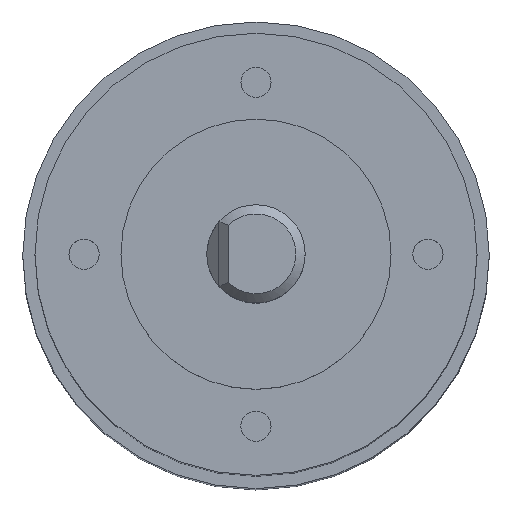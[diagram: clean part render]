
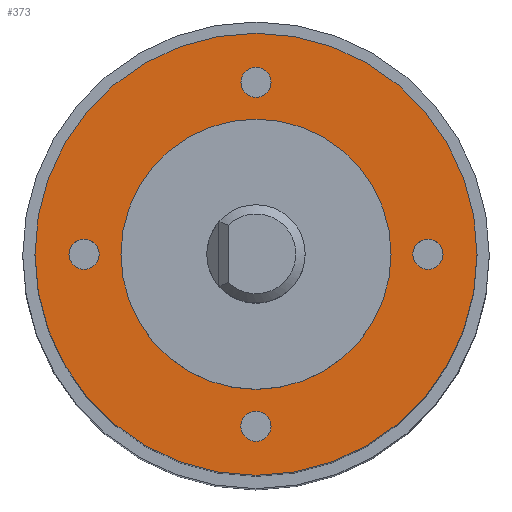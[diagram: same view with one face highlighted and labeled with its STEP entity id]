
A CAD part, top view. The second image highlights one B-rep face of the part: STEP entity #373.
In plain terms, the highlighted planar face has unit normal (0, 0, 1).
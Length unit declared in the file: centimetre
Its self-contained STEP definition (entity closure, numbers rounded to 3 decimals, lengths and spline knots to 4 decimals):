
#173=VERTEX_POINT('',#1208);
#175=VERTEX_POINT('',#1214);
#177=VERTEX_POINT('',#1220);
#179=VERTEX_POINT('',#1226);
#188=VERTEX_POINT('',#1262);
#189=VERTEX_POINT('',#1266);
#196=EDGE_CURVE('',#173,#173,#518,.T.);
#198=EDGE_CURVE('',#175,#175,#520,.T.);
#200=EDGE_CURVE('',#177,#177,#522,.T.);
#202=EDGE_CURVE('',#179,#179,#524,.T.);
#215=EDGE_CURVE('',#188,#188,#529,.T.);
#216=EDGE_CURVE('',#189,#189,#530,.T.);
#262=ORIENTED_EDGE('',*,*,#196,.T.);
#263=ORIENTED_EDGE('',*,*,#198,.T.);
#264=ORIENTED_EDGE('',*,*,#200,.T.);
#265=ORIENTED_EDGE('',*,*,#202,.T.);
#266=ORIENTED_EDGE('',*,*,#215,.T.);
#267=ORIENTED_EDGE('',*,*,#216,.F.);
#302=EDGE_LOOP('',(#262));
#303=EDGE_LOOP('',(#263));
#304=EDGE_LOOP('',(#264));
#305=EDGE_LOOP('',(#265));
#306=EDGE_LOOP('',(#266));
#307=EDGE_LOOP('',(#267));
#342=FACE_BOUND('',#302,.T.);
#343=FACE_BOUND('',#303,.T.);
#344=FACE_BOUND('',#304,.T.);
#345=FACE_BOUND('',#305,.T.);
#346=FACE_BOUND('',#306,.T.);
#347=FACE_BOUND('',#307,.T.);
#373=ADVANCED_FACE('',(#342,#343,#344,#345,#346,#347),#922,.T.);
#518=CIRCLE('',#844,0.123);
#520=CIRCLE('',#848,0.123);
#522=CIRCLE('',#852,0.123);
#524=CIRCLE('',#856,0.123);
#529=CIRCLE('',#870,1.1);
#530=CIRCLE('',#873,1.8);
#844=AXIS2_PLACEMENT_3D('',#1207,#1042,#1043);
#848=AXIS2_PLACEMENT_3D('',#1213,#1049,#1050);
#852=AXIS2_PLACEMENT_3D('',#1219,#1056,#1057);
#856=AXIS2_PLACEMENT_3D('',#1225,#1063,#1064);
#870=AXIS2_PLACEMENT_3D('',#1261,#1091,#1092);
#873=AXIS2_PLACEMENT_3D('',#1265,#1096,#1097);
#875=AXIS2_PLACEMENT_3D('',#1269,#1100,$);
#922=PLANE('',#875);
#1042=DIRECTION('',(0.,0.,-1.));
#1043=DIRECTION('',(0.,0.123,0.));
#1049=DIRECTION('',(0.,0.,-1.));
#1050=DIRECTION('',(0.,0.123,0.));
#1056=DIRECTION('',(0.,0.,-1.));
#1057=DIRECTION('',(0.,0.123,0.));
#1063=DIRECTION('',(0.,0.,-1.));
#1064=DIRECTION('',(0.,0.123,0.));
#1091=DIRECTION('',(0.,0.,-1.));
#1092=DIRECTION('',(1.1,0.,0.));
#1096=DIRECTION('',(0.,0.,-1.));
#1097=DIRECTION('',(1.8,0.,0.));
#1100=DIRECTION('',(0.,0.,1.));
#1207=CARTESIAN_POINT('',(-1.4,-0.0001,11.15));
#1208=CARTESIAN_POINT('',(-1.4,0.1229,11.15));
#1213=CARTESIAN_POINT('',(-0.0006,-1.4,11.15));
#1214=CARTESIAN_POINT('',(-0.0006,-1.277,11.15));
#1219=CARTESIAN_POINT('',(1.4,0.,11.15));
#1220=CARTESIAN_POINT('',(1.4,0.123,11.15));
#1225=CARTESIAN_POINT('',(0.,1.4,11.15));
#1226=CARTESIAN_POINT('',(0.,1.5229,11.15));
#1261=CARTESIAN_POINT('',(0.,0.,11.15));
#1262=CARTESIAN_POINT('',(1.1,0.,11.15));
#1265=CARTESIAN_POINT('',(0.,0.,11.15));
#1266=CARTESIAN_POINT('',(1.8,0.,11.15));
#1269=CARTESIAN_POINT('',(0.,0.,11.15));
